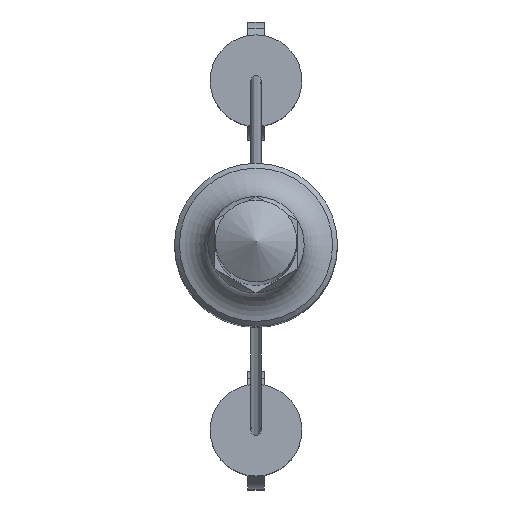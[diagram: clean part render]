
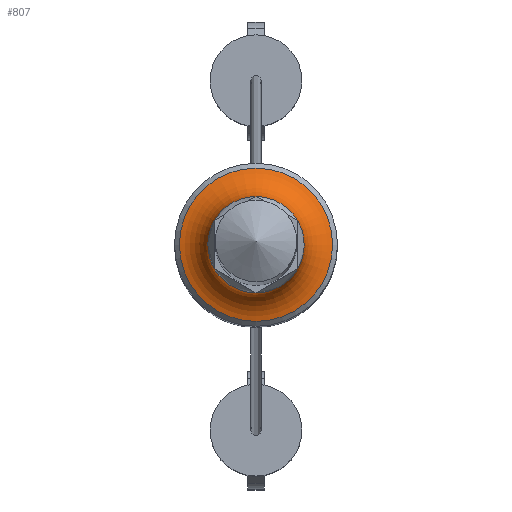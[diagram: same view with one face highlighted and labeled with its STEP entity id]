
A CAD part, top view. The second image highlights one B-rep face of the part: STEP entity #807.
In plain terms, the highlighted toroidal (fillet/blend) face has major radius 4.182 mm and minor radius 1.848 mm.
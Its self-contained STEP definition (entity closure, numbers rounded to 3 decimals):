
#1 = CARTESIAN_POINT ( 'NONE',  ( -2.336, 0.422, -3.5 ) ) ;
#6 = CARTESIAN_POINT ( 'NONE',  ( 2.227, 0.823, -3.5 ) ) ;
#21 = CARTESIAN_POINT ( 'NONE',  ( -0.401, 2.34, -3.5 ) ) ;
#59 = CARTESIAN_POINT ( 'NONE',  ( 2.365, 0.211, -3.5 ) ) ;
#75 = ORIENTED_EDGE ( 'NONE', *, *, #2222, .F. ) ;
#87 = EDGE_LOOP ( 'NONE', ( #1023, #702, #2748, #75, #1308, #1038 ) ) ;
#88 = CARTESIAN_POINT ( 'NONE',  ( 0.401, -2.34, -3.5 ) ) ;
#120 = CARTESIAN_POINT ( 'NONE',  ( 2.048, 1.183, -3.5 ) ) ;
#128 = VERTEX_POINT ( 'NONE', #1942 ) ;
#179 = DIRECTION ( 'NONE',  ( 0., 0., 1. ) ) ;
#191 = CARTESIAN_POINT ( 'NONE',  ( -2.048, -1.183, -3.5 ) ) ;
#194 = EDGE_CURVE ( 'NONE', #1760, #1870, #2567, .T. ) ;
#210 = CARTESIAN_POINT ( 'NONE',  ( -2.147, 1.012, -3.5 ) ) ;
#223 = CARTESIAN_POINT ( 'NONE',  ( 1.826, -1.517, -3.5 ) ) ;
#239 = CARTESIAN_POINT ( 'NONE',  ( 2.227, -0.823, -3.5 ) ) ;
#259 = CARTESIAN_POINT ( 'NONE',  ( 1.95, 1.353, -3.5 ) ) ;
#264 = CARTESIAN_POINT ( 'NONE',  ( 2.147, -1.012, -3.5 ) ) ;
#286 = CARTESIAN_POINT ( 'NONE',  ( -1.826, 1.517, -3.5 ) ) ;
#300 = DIRECTION ( 'NONE',  ( 1., 0., 0. ) ) ;
#351 = VERTEX_POINT ( 'NONE', #765 ) ;
#399 = CARTESIAN_POINT ( 'NONE',  ( -2.336, -0.422, -3.5 ) ) ;
#447 = DIRECTION ( 'NONE',  ( 1., 0., 0. ) ) ;
#572 = CARTESIAN_POINT ( 'NONE',  ( 0., 2.365, -3.5 ) ) ;
#613 = CARTESIAN_POINT ( 'NONE',  ( -2.365, -0.211, -3.5 ) ) ;
#672 = CARTESIAN_POINT ( 'NONE',  ( 1., 2.154, -3.5 ) ) ;
#680 = CARTESIAN_POINT ( 'NONE',  ( -1.95, 1.353, -3.5 ) ) ;
#691 = CARTESIAN_POINT ( 'NONE',  ( -1., -2.154, -3.5 ) ) ;
#694 = EDGE_CURVE ( 'NONE', #1098, #797, #1722, .T. ) ;
#702 = ORIENTED_EDGE ( 'NONE', *, *, #1117, .F. ) ;
#703 = CARTESIAN_POINT ( 'NONE',  ( 2.365, -0.211, -3.5 ) ) ;
#709 = CARTESIAN_POINT ( 'NONE',  ( 1.534, 1.812, -3.5 ) ) ;
#748 = AXIS2_PLACEMENT_3D ( 'NONE', #1682, #179, #447 ) ;
#765 = CARTESIAN_POINT ( 'NONE',  ( 3.76, 0., -4.96 ) ) ;
#797 = VERTEX_POINT ( 'NONE', #1696 ) ;
#801 = CARTESIAN_POINT ( 'NONE',  ( 1.95, -1.353, -3.5 ) ) ;
#807 = ADVANCED_FACE ( 'NONE', ( #1711, #2548 ), #964, .F. ) ;
#849 = CARTESIAN_POINT ( 'NONE',  ( 2.147, 1.012, -3.5 ) ) ;
#869 = CARTESIAN_POINT ( 'NONE',  ( -2.048, 1.183, -3.5 ) ) ;
#906 = CARTESIAN_POINT ( 'NONE',  ( 0., -2.365, -3.5 ) ) ;
#923 = CARTESIAN_POINT ( 'NONE',  ( -1.365, 1.943, -3.5 ) ) ;
#933 = CARTESIAN_POINT ( 'NONE',  ( 0.802, -2.234, -3.5 ) ) ;
#964 = TOROIDAL_SURFACE ( 'NONE', #748, 4.182, 1.848 ) ;
#984 = CIRCLE ( 'NONE', #2641, 3.76 ) ;
#1014 = B_SPLINE_CURVE_WITH_KNOTS ( 'NONE', 3,
 ( #1920, #2362, #21, #1762, #2351, #923, #2397, #286, #680, #869 ),
 .UNSPECIFIED., .F., .F.,
 ( 4, 2, 2, 2, 4 ),
 ( 0., 0.25, 0.5, 0.75, 1. ),
 .UNSPECIFIED. ) ;
#1023 = ORIENTED_EDGE ( 'NONE', *, *, #194, .F. ) ;
#1038 = ORIENTED_EDGE ( 'NONE', *, *, #1554, .F. ) ;
#1098 = VERTEX_POINT ( 'NONE', #2130 ) ;
#1108 = CARTESIAN_POINT ( 'NONE',  ( 1.826, 1.517, -3.5 ) ) ;
#1113 = CARTESIAN_POINT ( 'NONE',  ( 2.336, -0.422, -3.5 ) ) ;
#1114 = CARTESIAN_POINT ( 'NONE',  ( -0.802, -2.234, -3.5 ) ) ;
#1117 = EDGE_CURVE ( 'NONE', #797, #1760, #1342, .T. ) ;
#1135 = EDGE_CURVE ( 'NONE', #351, #351, #984, .T. ) ;
#1140 = CARTESIAN_POINT ( 'NONE',  ( 0., -2.365, -3.5 ) ) ;
#1174 = VERTEX_POINT ( 'NONE', #2195 ) ;
#1228 = CARTESIAN_POINT ( 'NONE',  ( 1.534, -1.812, -3.5 ) ) ;
#1241 = CARTESIAN_POINT ( 'NONE',  ( -2.227, -0.823, -3.5 ) ) ;
#1306 = CARTESIAN_POINT ( 'NONE',  ( -1.534, -1.812, -3.5 ) ) ;
#1308 = ORIENTED_EDGE ( 'NONE', *, *, #2453, .F. ) ;
#1340 = CARTESIAN_POINT ( 'NONE',  ( 1.365, 1.943, -3.5 ) ) ;
#1342 = B_SPLINE_CURVE_WITH_KNOTS ( 'NONE', 3,
 ( #2169, #264, #239, #1113, #703, #59, #1901, #6, #849, #1699 ),
 .UNSPECIFIED., .F., .F.,
 ( 4, 2, 2, 2, 4 ),
 ( 0., 0.25, 0.5, 0.75, 1. ),
 .UNSPECIFIED. ) ;
#1362 = CARTESIAN_POINT ( 'NONE',  ( 1.365, -1.943, -3.5 ) ) ;
#1383 = DIRECTION ( 'NONE',  ( 0., 0., 1. ) ) ;
#1500 = CARTESIAN_POINT ( 'NONE',  ( 0.197, 2.365, -3.5 ) ) ;
#1514 = CARTESIAN_POINT ( 'NONE',  ( 0., 2.365, -3.5 ) ) ;
#1519 = CARTESIAN_POINT ( 'NONE',  ( -1.95, -1.353, -3.5 ) ) ;
#1533 = CARTESIAN_POINT ( 'NONE',  ( -0.401, -2.34, -3.5 ) ) ;
#1554 = EDGE_CURVE ( 'NONE', #1870, #128, #1014, .T. ) ;
#1662 = CARTESIAN_POINT ( 'NONE',  ( -2.227, 0.823, -3.5 ) ) ;
#1682 = CARTESIAN_POINT ( 'NONE',  ( 0., 0., -3.161 ) ) ;
#1696 = CARTESIAN_POINT ( 'NONE',  ( 2.048, -1.183, -3.5 ) ) ;
#1699 = CARTESIAN_POINT ( 'NONE',  ( 2.048, 1.183, -3.5 ) ) ;
#1708 = CARTESIAN_POINT ( 'NONE',  ( 0.802, 2.234, -3.5 ) ) ;
#1711 = FACE_OUTER_BOUND ( 'NONE', #2040, .T. ) ;
#1722 = B_SPLINE_CURVE_WITH_KNOTS ( 'NONE', 3,
 ( #1140, #1986, #88, #933, #1780, #1362, #1228, #223, #801, #2140 ),
 .UNSPECIFIED., .F., .F.,
 ( 4, 2, 2, 2, 4 ),
 ( 0., 0.25, 0.5, 0.75, 1. ),
 .UNSPECIFIED. ) ;
#1731 = CARTESIAN_POINT ( 'NONE',  ( -2.048, -1.183, -3.5 ) ) ;
#1760 = VERTEX_POINT ( 'NONE', #120 ) ;
#1762 = CARTESIAN_POINT ( 'NONE',  ( -0.802, 2.234, -3.5 ) ) ;
#1780 = CARTESIAN_POINT ( 'NONE',  ( 1., -2.154, -3.5 ) ) ;
#1870 = VERTEX_POINT ( 'NONE', #572 ) ;
#1901 = CARTESIAN_POINT ( 'NONE',  ( 2.336, 0.422, -3.5 ) ) ;
#1920 = CARTESIAN_POINT ( 'NONE',  ( 0., 2.365, -3.5 ) ) ;
#1942 = CARTESIAN_POINT ( 'NONE',  ( -2.048, 1.183, -3.5 ) ) ;
#1963 = CARTESIAN_POINT ( 'NONE',  ( -0.197, -2.365, -3.5 ) ) ;
#1986 = CARTESIAN_POINT ( 'NONE',  ( 0.197, -2.365, -3.5 ) ) ;
#1994 = CARTESIAN_POINT ( 'NONE',  ( 0., 0., -4.96 ) ) ;
#2027 = B_SPLINE_CURVE_WITH_KNOTS ( 'NONE', 3,
 ( #2323, #210, #1662, #1, #2511, #613, #399, #1241, #2092, #191 ),
 .UNSPECIFIED., .F., .F.,
 ( 4, 2, 2, 2, 4 ),
 ( 0., 0.25, 0.5, 0.75, 1. ),
 .UNSPECIFIED. ) ;
#2040 = EDGE_LOOP ( 'NONE', ( #2289 ) ) ;
#2092 = CARTESIAN_POINT ( 'NONE',  ( -2.147, -1.012, -3.5 ) ) ;
#2130 = CARTESIAN_POINT ( 'NONE',  ( 0., -2.365, -3.5 ) ) ;
#2140 = CARTESIAN_POINT ( 'NONE',  ( 2.048, -1.183, -3.5 ) ) ;
#2154 = CARTESIAN_POINT ( 'NONE',  ( -1.365, -1.943, -3.5 ) ) ;
#2169 = CARTESIAN_POINT ( 'NONE',  ( 2.048, -1.183, -3.5 ) ) ;
#2195 = CARTESIAN_POINT ( 'NONE',  ( -2.048, -1.183, -3.5 ) ) ;
#2222 = EDGE_CURVE ( 'NONE', #1174, #1098, #2344, .T. ) ;
#2289 = ORIENTED_EDGE ( 'NONE', *, *, #1135, .T. ) ;
#2323 = CARTESIAN_POINT ( 'NONE',  ( -2.048, 1.183, -3.5 ) ) ;
#2344 = B_SPLINE_CURVE_WITH_KNOTS ( 'NONE', 3,
 ( #1731, #1519, #2369, #1306, #2154, #691, #1114, #1533, #1963, #906 ),
 .UNSPECIFIED., .F., .F.,
 ( 4, 2, 2, 2, 4 ),
 ( 0., 0.25, 0.5, 0.75, 1. ),
 .UNSPECIFIED. ) ;
#2351 = CARTESIAN_POINT ( 'NONE',  ( -1., 2.154, -3.5 ) ) ;
#2362 = CARTESIAN_POINT ( 'NONE',  ( -0.197, 2.365, -3.5 ) ) ;
#2369 = CARTESIAN_POINT ( 'NONE',  ( -1.826, -1.517, -3.5 ) ) ;
#2378 = CARTESIAN_POINT ( 'NONE',  ( 2.048, 1.183, -3.5 ) ) ;
#2397 = CARTESIAN_POINT ( 'NONE',  ( -1.534, 1.812, -3.5 ) ) ;
#2453 = EDGE_CURVE ( 'NONE', #128, #1174, #2027, .T. ) ;
#2511 = CARTESIAN_POINT ( 'NONE',  ( -2.365, 0.211, -3.5 ) ) ;
#2548 = FACE_OUTER_BOUND ( 'NONE', #87, .T. ) ;
#2561 = CARTESIAN_POINT ( 'NONE',  ( 0.401, 2.34, -3.5 ) ) ;
#2567 = B_SPLINE_CURVE_WITH_KNOTS ( 'NONE', 3,
 ( #2378, #259, #1108, #709, #1340, #672, #1708, #2561, #1500, #1514 ),
 .UNSPECIFIED., .F., .F.,
 ( 4, 2, 2, 2, 4 ),
 ( 0., 0.25, 0.5, 0.75, 1. ),
 .UNSPECIFIED. ) ;
#2641 = AXIS2_PLACEMENT_3D ( 'NONE', #1994, #1383, #300 ) ;
#2748 = ORIENTED_EDGE ( 'NONE', *, *, #694, .F. ) ;
